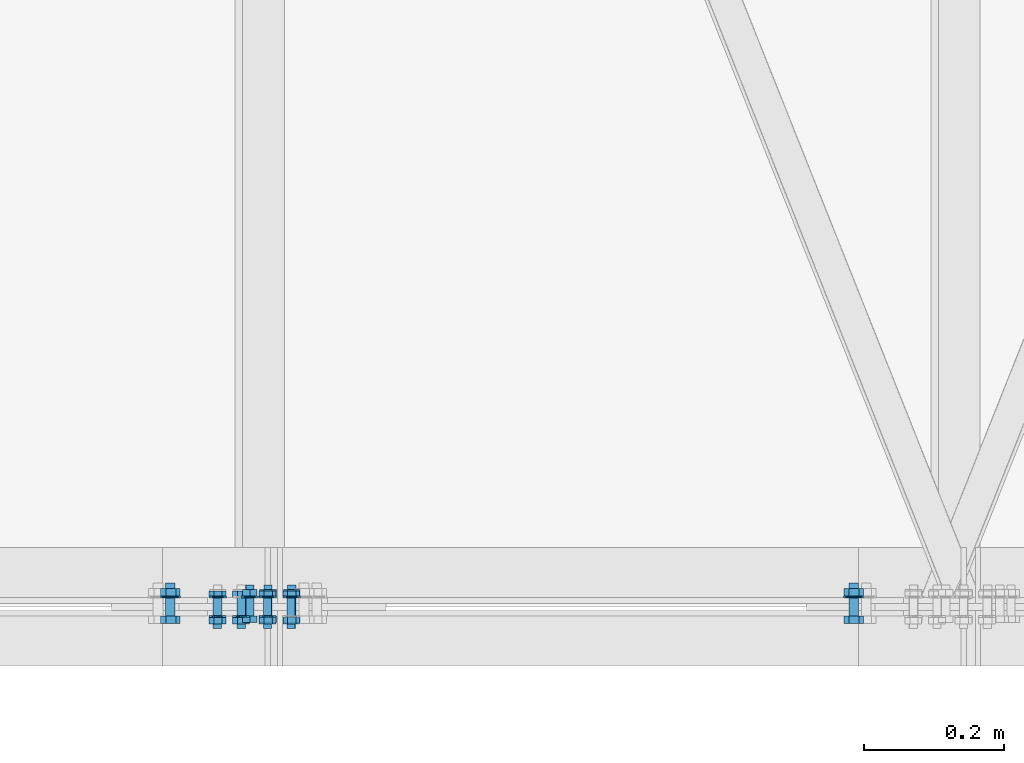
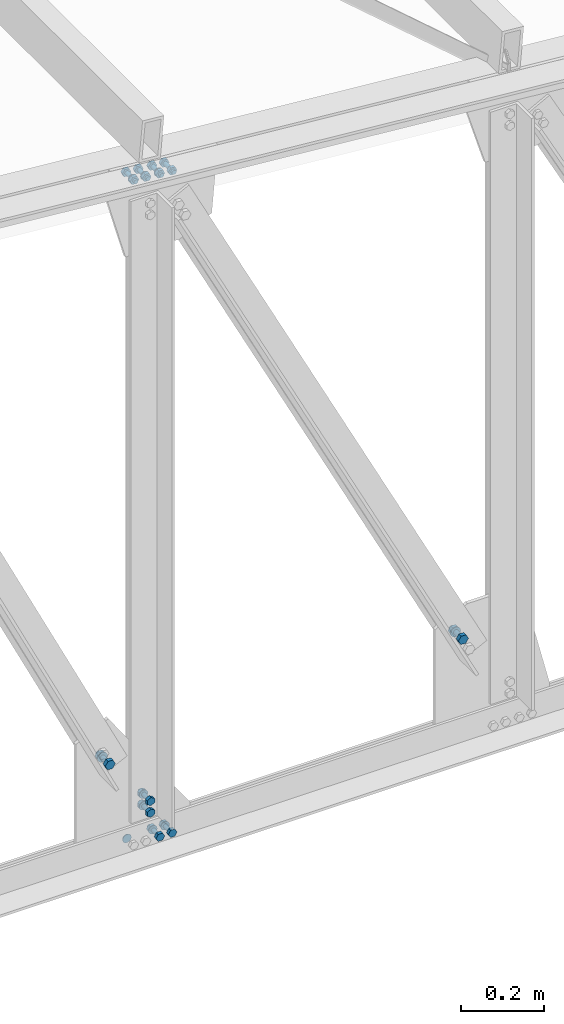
# One storey, part 62 of 251: 40 mechanical fasteners.
"""IFC4 building model written with IfcOpenShell, lengths in metres."""

from ifc_helpers import new_model, si_unit, frame, origin_with_axes, place, context, project, spatial, polyline, outline, extrude, type_object, element, save


model = new_model("IFC4")

# Units and contexts
model_context = context("Model", 3, precision=1e-05, world=origin_with_axes())
ifc_project = project(units=[si_unit("LENGTHUNIT", "METRE"), si_unit("AREAUNIT", "SQUARE_METRE"), si_unit("VOLUMEUNIT", "CUBIC_METRE"), si_unit("MASSUNIT", "GRAM", prefix="KILO"), si_unit("TIMEUNIT", "SECOND"), si_unit("PLANEANGLEUNIT", "RADIAN"), si_unit("SOLIDANGLEUNIT", "STERADIAN"), si_unit("THERMODYNAMICTEMPERATUREUNIT", "DEGREE_CELSIUS")], contexts=[model_context])

# Site, building, storey
placement_1 = place(None, origin_with_axes())
site = spatial("IfcSite", under=ifc_project, at=placement_1, Name="Italia", CompositionType="ELEMENT")
building = spatial("IfcBuilding", under=site, at=placement_1, Name="Deposito", CompositionType="ELEMENT")
storey = spatial("IfcBuildingStorey", under=building, at=placement_1, Name="Storey 0", CompositionType="ELEMENT", Elevation=0.0)

# Mechanical fasteners
mechanical_fastener_type_1 = type_object("IfcMechanicalFastenerType", Name="Reticolare 2", PredefinedType="BOLT")
placement_2 = place(placement_1, origin_with_axes())
mechanical_fastener_1_placement = place(placement_2, origin_with_axes())
element("IfcMechanicalFastener", 1, at=mechanical_fastener_1_placement, inside=storey, type_object=mechanical_fastener_type_1, Name="Reticolare 2", NominalDiameter=0.024, context=model_context, shape_type="SweptSolid", body=[
    extrude(outline(polyline([(0.0, 0.0), (-0.000409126, -0.00310564), (-0.00160789, -0.00600004), (-0.00351524, -0.00848532), (-0.00600052, -0.0103922), (-0.00889397, -0.011591), (-0.0120001, -0.0120001), (-0.0151062, -0.011591), (-0.0179996, -0.0103922), (-0.0204849, -0.00848532), (-0.0223923, -0.00600004), (-0.023591, -0.00310564), (-0.0240002, 0.0), (-0.023591, 0.00310564), (-0.0223923, 0.00600004), (-0.0204849, 0.00848532), (-0.0179996, 0.0103922), (-0.0151062, 0.011591), (-0.0120001, 0.0120001), (-0.00889397, 0.011591), (-0.00600052, 0.0103922), (-0.00351524, 0.00848532), (-0.00160789, 0.00600004), (-0.000409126, 0.00310564), (0.0, 0.0)])), frame((9.00086, 0.015, 5.007), z_axis=(0.0, -1.0, 0.0), x_axis=(1.0, 0.0, 0.0)), (0.0, 0.0, 1.0), 0.002),
])
mechanical_fastener_type_2 = type_object("IfcMechanicalFastenerType", Name="Reticolare 2", PredefinedType="BOLT")
mechanical_fastener_2_placement = place(placement_2, origin_with_axes())
element("IfcMechanicalFastener", 2, at=mechanical_fastener_2_placement, inside=storey, type_object=mechanical_fastener_type_2, Name="Reticolare 2", NominalDiameter=0.0119997, context=model_context, shape_type="SweptSolid", body=[
    extrude(outline(polyline([(0.0, 0.0), (-0.0120001, 0.0), (-0.0179996, 0.0103922), (-0.0120001, 0.0207844), (0.0, 0.0207844), (0.00600052, 0.0103922), (0.0, 0.0)])), frame((9.06686, -0.013, 4.99661), z_axis=(0.0, -1.0, 0.0), x_axis=(1.0, 0.0, 0.0)), (0.0, 0.0, 1.0), 0.0096),
])
mechanical_fastener_type_3 = type_object("IfcMechanicalFastenerType", Name="Reticolare 2", PredefinedType="BOLT")
mechanical_fastener_3_placement = place(placement_2, origin_with_axes())
element("IfcMechanicalFastener", 3, at=mechanical_fastener_3_placement, inside=storey, type_object=mechanical_fastener_type_3, Name="Reticolare 2", NominalDiameter=0.012, context=model_context, shape_type="SweptSolid", body=[
    extrude(outline(polyline([(0.0, 0.0), (-0.000204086, -0.00155306), (-0.000802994, -0.00299978), (-0.00175667, -0.00424242), (-0.00299931, -0.00519609), (-0.00444698, -0.00579548), (-0.00599957, -0.00600004), (-0.00755215, -0.00579548), (-0.00899982, -0.00519609), (-0.0102425, -0.00424242), (-0.0111961, -0.00299978), (-0.011795, -0.00155306), (-0.0119991, 0.0), (-0.011795, 0.00155306), (-0.0111961, 0.00299978), (-0.0102425, 0.00424242), (-0.00899982, 0.00519609), (-0.00755215, 0.00579548), (-0.00599957, 0.00600004), (-0.00444698, 0.00579548), (-0.00299931, 0.00519609), (-0.00175667, 0.00424242), (-0.000802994, 0.00299978), (-0.000204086, 0.00155306), (0.0, 0.0)])), frame((9.06686, 0.031, 5.007), z_axis=(0.0, -1.0, 0.0), x_axis=(1.0, 0.0, 0.0)), (0.0, 0.0, 1.0), 0.044),
])
mechanical_fastener_type_4 = type_object("IfcMechanicalFastenerType", Name="Reticolare 2", PredefinedType="BOLT")
mechanical_fastener_4_placement = place(placement_2, origin_with_axes())
element("IfcMechanicalFastener", 4, at=mechanical_fastener_4_placement, inside=storey, type_object=mechanical_fastener_type_4, Name="Reticolare 2", NominalDiameter=0.0119997, context=model_context, shape_type="SweptSolid", body=[
    extrude(outline(polyline([(0.0, 0.0), (-0.0120001, 0.0), (-0.0179996, 0.0103922), (-0.0120001, 0.0207844), (0.0, 0.0207844), (0.00600052, 0.0103922), (0.0, 0.0)])), frame((9.06686, 0.0246, 4.99661), z_axis=(0.0, -1.0, 0.0), x_axis=(1.0, 0.0, 0.0)), (0.0, 0.0, 1.0), 0.0096),
])
mechanical_fastener_type_5 = type_object("IfcMechanicalFastenerType", Name="Reticolare 2", PredefinedType="BOLT")
mechanical_fastener_5_placement = place(placement_2, origin_with_axes())
element("IfcMechanicalFastener", 5, at=mechanical_fastener_5_placement, inside=storey, type_object=mechanical_fastener_type_5, Name="Reticolare 2", NominalDiameter=0.024, context=model_context, shape_type="SweptSolid", body=[
    extrude(outline(polyline([(0.0, 0.0), (-0.000409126, -0.00310564), (-0.00160789, -0.00600004), (-0.00351524, -0.00848532), (-0.00600052, -0.0103922), (-0.00889397, -0.011591), (-0.0120001, -0.0120001), (-0.0151062, -0.011591), (-0.0179996, -0.0103922), (-0.0204849, -0.00848532), (-0.0223923, -0.00600004), (-0.023591, -0.00310564), (-0.0240002, 0.0), (-0.023591, 0.00310564), (-0.0223923, 0.00600004), (-0.0204849, 0.00848532), (-0.0179996, 0.0103922), (-0.0151062, 0.011591), (-0.0120001, 0.0120001), (-0.00889397, 0.011591), (-0.00600052, 0.0103922), (-0.00351524, 0.00848532), (-0.00160789, 0.00600004), (-0.000409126, 0.00310564), (0.0, 0.0)])), frame((9.07286, 0.015, 5.007), z_axis=(0.0, -1.0, 0.0), x_axis=(1.0, 0.0, 0.0)), (0.0, 0.0, 1.0), 0.002),
])
mechanical_fastener_type_6 = type_object("IfcMechanicalFastenerType", Name="Reticolare 2", PredefinedType="BOLT")
mechanical_fastener_6_placement = place(placement_2, origin_with_axes())
element("IfcMechanicalFastener", 6, at=mechanical_fastener_6_placement, inside=storey, type_object=mechanical_fastener_type_6, Name="Reticolare 2", NominalDiameter=0.0119997, context=model_context, shape_type="SweptSolid", body=[
    extrude(outline(polyline([(0.0, 0.0), (-0.0120001, 0.0), (-0.0179996, 0.0103922), (-0.0120001, 0.0207844), (0.0, 0.0207844), (0.00599957, 0.0103922), (0.0, 0.0)])), frame((9.10086, -0.013, 4.99661), z_axis=(0.0, -1.0, 0.0), x_axis=(1.0, 0.0, 0.0)), (0.0, 0.0, 1.0), 0.0096),
])
mechanical_fastener_type_7 = type_object("IfcMechanicalFastenerType", Name="Reticolare 2", PredefinedType="BOLT")
mechanical_fastener_7_placement = place(placement_2, origin_with_axes())
element("IfcMechanicalFastener", 7, at=mechanical_fastener_7_placement, inside=storey, type_object=mechanical_fastener_type_7, Name="Reticolare 2", NominalDiameter=0.012, context=model_context, shape_type="SweptSolid", body=[
    extrude(outline(polyline([(0.0, 0.0), (-0.000204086, -0.00155306), (-0.000802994, -0.00299978), (-0.00175667, -0.00424242), (-0.00299931, -0.00519609), (-0.00444698, -0.00579548), (-0.00599957, -0.00600004), (-0.00755215, -0.00579548), (-0.00899982, -0.00519609), (-0.0102425, -0.00424242), (-0.0111961, -0.00299978), (-0.011795, -0.00155306), (-0.0119991, 0.0), (-0.011795, 0.00155306), (-0.0111961, 0.00299978), (-0.0102425, 0.00424242), (-0.00899982, 0.00519609), (-0.00755215, 0.00579548), (-0.00599957, 0.00600004), (-0.00444698, 0.00579548), (-0.00299931, 0.00519609), (-0.00175667, 0.00424242), (-0.000802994, 0.00299978), (-0.000204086, 0.00155306), (0.0, 0.0)])), frame((9.10086, 0.031, 5.007), z_axis=(0.0, -1.0, 0.0), x_axis=(1.0, 0.0, 0.0)), (0.0, 0.0, 1.0), 0.044),
])
mechanical_fastener_type_8 = type_object("IfcMechanicalFastenerType", Name="Reticolare 2", PredefinedType="BOLT")
mechanical_fastener_8_placement = place(placement_2, origin_with_axes())
element("IfcMechanicalFastener", 8, at=mechanical_fastener_8_placement, inside=storey, type_object=mechanical_fastener_type_8, Name="Reticolare 2", NominalDiameter=0.0119997, context=model_context, shape_type="SweptSolid", body=[
    extrude(outline(polyline([(0.0, 0.0), (-0.0120001, 0.0), (-0.0179996, 0.0103922), (-0.0120001, 0.0207844), (0.0, 0.0207844), (0.00599957, 0.0103922), (0.0, 0.0)])), frame((9.10086, 0.0246, 4.99661), z_axis=(0.0, -1.0, 0.0), x_axis=(1.0, 0.0, 0.0)), (0.0, 0.0, 1.0), 0.0096),
])
mechanical_fastener_type_9 = type_object("IfcMechanicalFastenerType", Name="Reticolare 2", PredefinedType="BOLT")
mechanical_fastener_9_placement = place(placement_2, origin_with_axes())
element("IfcMechanicalFastener", 9, at=mechanical_fastener_9_placement, inside=storey, type_object=mechanical_fastener_type_9, Name="Reticolare 2", NominalDiameter=0.024, context=model_context, shape_type="SweptSolid", body=[
    extrude(outline(polyline([(0.0, 0.0), (-0.000409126, -0.00310564), (-0.00160789, -0.00600004), (-0.00351524, -0.00848532), (-0.00600052, -0.0103922), (-0.00889397, -0.011591), (-0.0120001, -0.0120001), (-0.0151062, -0.011591), (-0.0179996, -0.0103922), (-0.0204849, -0.00848532), (-0.0223923, -0.00600004), (-0.023591, -0.00310564), (-0.0240002, 0.0), (-0.023591, 0.00310564), (-0.0223923, 0.00600004), (-0.0204849, 0.00848532), (-0.0179996, 0.0103922), (-0.0151062, 0.011591), (-0.0120001, 0.0120001), (-0.00889397, 0.011591), (-0.00600052, 0.0103922), (-0.00351524, 0.00848532), (-0.00160789, 0.00600004), (-0.000409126, 0.00310564), (0.0, 0.0)])), frame((9.10686, 0.015, 5.007), z_axis=(0.0, -1.0, 0.0), x_axis=(1.0, 0.0, 0.0)), (0.0, 0.0, 1.0), 0.002),
])
mechanical_fastener_type_10 = type_object("IfcMechanicalFastenerType", Name="Reticolare 2", PredefinedType="BOLT")
mechanical_fastener_10_placement = place(placement_2, origin_with_axes())
element("IfcMechanicalFastener", 10, at=mechanical_fastener_10_placement, inside=storey, type_object=mechanical_fastener_type_10, Name="Reticolare 2", NominalDiameter=0.0119999, context=model_context, shape_type="SweptSolid", body=[
    extrude(outline(polyline([(0.0, 0.0), (0.0, -0.0120001), (-0.0103922, -0.0180001), (-0.0207844, -0.0120001), (-0.0207844, 0.0), (-0.0103922, 0.00600004), (0.0, 0.0)])), frame((9.04525, -0.013, 5.09253), z_axis=(0.0, -1.0, 0.0), x_axis=(1.0, 0.0, 0.0)), (0.0, 0.0, 1.0), 0.0096),
])
mechanical_fastener_type_11 = type_object("IfcMechanicalFastenerType", Name="Reticolare 2", PredefinedType="BOLT")
mechanical_fastener_11_placement = place(placement_2, origin_with_axes())
element("IfcMechanicalFastener", 11, at=mechanical_fastener_11_placement, inside=storey, type_object=mechanical_fastener_type_11, Name="Reticolare 2", NominalDiameter=0.012, context=model_context, shape_type="SweptSolid", body=[
    extrude(outline(polyline([(0.0, 0.0), (-0.000204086, -0.00155306), (-0.000802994, -0.00299978), (-0.00175667, -0.00424242), (-0.00299931, -0.00519609), (-0.00444698, -0.00579548), (-0.00599957, -0.00600004), (-0.00755215, -0.00579548), (-0.00899982, -0.00519609), (-0.0102425, -0.00424242), (-0.0111961, -0.00299978), (-0.011795, -0.00155306), (-0.0119991, 0.0), (-0.011795, 0.00155306), (-0.0111961, 0.00299978), (-0.0102425, 0.00424242), (-0.00899982, 0.00519609), (-0.00755215, 0.00579548), (-0.00599957, 0.00600004), (-0.00444698, 0.00579548), (-0.00299931, 0.00519609), (-0.00175667, 0.00424242), (-0.000802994, 0.00299978), (-0.000204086, 0.00155306), (0.0, 0.0)])), frame((9.04086, 0.031, 5.08653), z_axis=(0.0, -1.0, 0.0), x_axis=(1.0, 0.0, 0.0)), (0.0, 0.0, 1.0), 0.044),
])
mechanical_fastener_type_12 = type_object("IfcMechanicalFastenerType", Name="Reticolare 2", PredefinedType="BOLT")
mechanical_fastener_12_placement = place(placement_2, origin_with_axes())
element("IfcMechanicalFastener", 12, at=mechanical_fastener_12_placement, inside=storey, type_object=mechanical_fastener_type_12, Name="Reticolare 2", NominalDiameter=0.0119999, context=model_context, shape_type="SweptSolid", body=[
    extrude(outline(polyline([(0.0, 0.0), (0.0, -0.0120001), (-0.0103922, -0.0180001), (-0.0207844, -0.0120001), (-0.0207844, 0.0), (-0.0103922, 0.00600004), (0.0, 0.0)])), frame((9.04525, 0.0246, 5.09253), z_axis=(0.0, -1.0, 0.0), x_axis=(1.0, 0.0, 0.0)), (0.0, 0.0, 1.0), 0.0096),
])
mechanical_fastener_type_13 = type_object("IfcMechanicalFastenerType", Name="Reticolare 2", PredefinedType="BOLT")
mechanical_fastener_13_placement = place(placement_2, origin_with_axes())
element("IfcMechanicalFastener", 13, at=mechanical_fastener_13_placement, inside=storey, type_object=mechanical_fastener_type_13, Name="Reticolare 2", NominalDiameter=0.024, context=model_context, shape_type="SweptSolid", body=[
    extrude(outline(polyline([(0.0, 0.0), (-0.000409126, -0.00310564), (-0.00160789, -0.00600004), (-0.00351524, -0.00848532), (-0.00600052, -0.0103922), (-0.00889397, -0.011591), (-0.0120001, -0.0120001), (-0.0151062, -0.011591), (-0.0179996, -0.0103922), (-0.0204849, -0.00848532), (-0.0223923, -0.00600004), (-0.023591, -0.00310564), (-0.0240002, 0.0), (-0.023591, 0.00310564), (-0.0223923, 0.00600004), (-0.0204849, 0.00848532), (-0.0179996, 0.0103922), (-0.0151062, 0.011591), (-0.0120001, 0.0120001), (-0.00889397, 0.011591), (-0.00600052, 0.0103922), (-0.00351524, 0.00848532), (-0.00160789, 0.00600004), (-0.000409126, 0.00310564), (0.0, 0.0)])), frame((9.04686, 0.015, 5.08653), z_axis=(0.0, -1.0, 0.0), x_axis=(1.0, 0.0, 0.0)), (0.0, 0.0, 1.0), 0.002),
])
mechanical_fastener_type_14 = type_object("IfcMechanicalFastenerType", Name="Reticolare 2", PredefinedType="BOLT")
mechanical_fastener_14_placement = place(placement_2, origin_with_axes())
element("IfcMechanicalFastener", 14, at=mechanical_fastener_14_placement, inside=storey, type_object=mechanical_fastener_type_14, Name="Reticolare 2", NominalDiameter=0.0119999, context=model_context, shape_type="SweptSolid", body=[
    extrude(outline(polyline([(0.0, 0.0), (0.0, -0.0120001), (-0.0103922, -0.0180001), (-0.0207844, -0.0120001), (-0.0207844, 0.0), (-0.0103922, 0.00600004), (0.0, 0.0)])), frame((9.04525, -0.013, 5.12653), z_axis=(0.0, -1.0, 0.0), x_axis=(1.0, 0.0, 0.0)), (0.0, 0.0, 1.0), 0.0096),
])
mechanical_fastener_type_15 = type_object("IfcMechanicalFastenerType", Name="Reticolare 2", PredefinedType="BOLT")
mechanical_fastener_15_placement = place(placement_2, origin_with_axes())
element("IfcMechanicalFastener", 15, at=mechanical_fastener_15_placement, inside=storey, type_object=mechanical_fastener_type_15, Name="Reticolare 2", NominalDiameter=0.012, context=model_context, shape_type="SweptSolid", body=[
    extrude(outline(polyline([(0.0, 0.0), (-0.000204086, -0.00155306), (-0.000802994, -0.00299978), (-0.00175667, -0.00424242), (-0.00299931, -0.00519609), (-0.00444698, -0.00579548), (-0.00599957, -0.00600004), (-0.00755215, -0.00579548), (-0.00899982, -0.00519609), (-0.0102425, -0.00424242), (-0.0111961, -0.00299978), (-0.011795, -0.00155306), (-0.0119991, 0.0), (-0.011795, 0.00155306), (-0.0111961, 0.00299978), (-0.0102425, 0.00424242), (-0.00899982, 0.00519609), (-0.00755215, 0.00579548), (-0.00599957, 0.00600004), (-0.00444698, 0.00579548), (-0.00299931, 0.00519609), (-0.00175667, 0.00424242), (-0.000802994, 0.00299978), (-0.000204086, 0.00155306), (0.0, 0.0)])), frame((9.04086, 0.031, 5.12053), z_axis=(0.0, -1.0, 0.0), x_axis=(1.0, 0.0, 0.0)), (0.0, 0.0, 1.0), 0.044),
])
mechanical_fastener_type_16 = type_object("IfcMechanicalFastenerType", Name="Reticolare 2", PredefinedType="BOLT")
mechanical_fastener_16_placement = place(placement_2, origin_with_axes())
element("IfcMechanicalFastener", 16, at=mechanical_fastener_16_placement, inside=storey, type_object=mechanical_fastener_type_16, Name="Reticolare 2", NominalDiameter=0.0119999, context=model_context, shape_type="SweptSolid", body=[
    extrude(outline(polyline([(0.0, 0.0), (0.0, -0.0120001), (-0.0103922, -0.0180001), (-0.0207844, -0.0120001), (-0.0207844, 0.0), (-0.0103922, 0.00600004), (0.0, 0.0)])), frame((9.04525, 0.0246, 5.12653), z_axis=(0.0, -1.0, 0.0), x_axis=(1.0, 0.0, 0.0)), (0.0, 0.0, 1.0), 0.0096),
])
mechanical_fastener_type_17 = type_object("IfcMechanicalFastenerType", Name="Reticolare 2", PredefinedType="BOLT")
mechanical_fastener_17_placement = place(placement_2, origin_with_axes())
element("IfcMechanicalFastener", 17, at=mechanical_fastener_17_placement, inside=storey, type_object=mechanical_fastener_type_17, Name="Reticolare 2", NominalDiameter=0.024, context=model_context, shape_type="SweptSolid", body=[
    extrude(outline(polyline([(0.0, 0.0), (-0.000409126, -0.00310564), (-0.00160789, -0.00600004), (-0.00351524, -0.00848532), (-0.00600052, -0.0103922), (-0.00889397, -0.011591), (-0.0120001, -0.0120001), (-0.0151062, -0.011591), (-0.0179996, -0.0103922), (-0.0204849, -0.00848532), (-0.0223923, -0.00600004), (-0.023591, -0.00310564), (-0.0240002, 0.0), (-0.023591, 0.00310564), (-0.0223923, 0.00600004), (-0.0204849, 0.00848532), (-0.0179996, 0.0103922), (-0.0151062, 0.011591), (-0.0120001, 0.0120001), (-0.00889397, 0.011591), (-0.00600052, 0.0103922), (-0.00351524, 0.00848532), (-0.00160789, 0.00600004), (-0.000409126, 0.00310564), (0.0, 0.0)])), frame((9.04686, 0.015, 5.12053), z_axis=(0.0, -1.0, 0.0), x_axis=(1.0, 0.0, 0.0)), (0.0, 0.0, 1.0), 0.002),
])
mechanical_fastener_type_18 = type_object("IfcMechanicalFastenerType", Name="Reticolare 2", PredefinedType="BOLT")
mechanical_fastener_18_placement = place(placement_2, origin_with_axes())
element("IfcMechanicalFastener", 18, at=mechanical_fastener_18_placement, inside=storey, type_object=mechanical_fastener_type_18, Name="Reticolare 2", NominalDiameter=0.0139994, context=model_context, shape_type="SweptSolid", body=[
    extrude(outline(polyline([(0.0, 0.0), (-0.00612926, 0.0125871), (0.00170708, 0.0241885), (0.0156717, 0.0232029), (0.021801, 0.0106158), (0.0139647, -0.000985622), (0.0, 0.0)])), frame((8.91327, -0.013, 5.25695), z_axis=(0.0, -1.0, 0.0), x_axis=(1.0, 0.0, 0.0)), (0.0, 0.0, 1.0), 0.0112),
])
mechanical_fastener_type_19 = type_object("IfcMechanicalFastenerType", Name="Reticolare 2", PredefinedType="BOLT")
mechanical_fastener_19_placement = place(placement_2, origin_with_axes())
element("IfcMechanicalFastener", 19, at=mechanical_fastener_19_placement, inside=storey, type_object=mechanical_fastener_type_19, Name="Reticolare 2", NominalDiameter=0.014, context=model_context, shape_type="SweptSolid", body=[
    extrude(outline(polyline([(0.0, 0.0), (-0.000238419, -0.0018115), (-0.000937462, -0.00349998), (-0.0020504, -0.00494957), (-0.00349998, -0.00606203), (-0.00518799, -0.00676155), (-0.00699997, -0.00699997), (-0.00881195, -0.00676155), (-0.0105, -0.00606203), (-0.0119495, -0.00494957), (-0.0130625, -0.00349998), (-0.0137615, -0.0018115), (-0.0139999, 0.0), (-0.0137615, 0.0018115), (-0.0130625, 0.00349998), (-0.0119495, 0.00494957), (-0.0105, 0.00606203), (-0.00881195, 0.00676155), (-0.00699997, 0.00699997), (-0.00518799, 0.00676155), (-0.00349998, 0.00606203), (-0.0020504, 0.00494957), (-0.000937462, 0.00349998), (-0.000238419, 0.0018115), (0.0, 0.0)])), frame((8.9281, 0.034, 5.26855), z_axis=(0.0, -1.0, 0.0), x_axis=(1.0, 0.0, 0.0)), (0.0, 0.0, 1.0), 0.047),
])
mechanical_fastener_type_20 = type_object("IfcMechanicalFastenerType", Name="Reticolare 2", PredefinedType="BOLT")
mechanical_fastener_20_placement = place(placement_2, origin_with_axes())
element("IfcMechanicalFastener", 20, at=mechanical_fastener_20_placement, inside=storey, type_object=mechanical_fastener_type_20, Name="Reticolare 2", NominalDiameter=0.0139994, context=model_context, shape_type="SweptSolid", body=[
    extrude(outline(polyline([(0.0, 0.0), (-0.00612926, 0.0125871), (0.00170708, 0.0241885), (0.0156717, 0.0232029), (0.021801, 0.0106158), (0.0139647, -0.000985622), (0.0, 0.0)])), frame((8.91327, 0.0262, 5.25695), z_axis=(0.0, -1.0, 0.0), x_axis=(1.0, 0.0, 0.0)), (0.0, 0.0, 1.0), 0.0112),
])
mechanical_fastener_type_21 = type_object("IfcMechanicalFastenerType", Name="Reticolare 2", PredefinedType="BOLT")
mechanical_fastener_21_placement = place(placement_2, origin_with_axes())
element("IfcMechanicalFastener", 21, at=mechanical_fastener_21_placement, inside=storey, type_object=mechanical_fastener_type_21, Name="Reticolare 2", NominalDiameter=0.028, context=model_context, shape_type="SweptSolid", body=[
    extrude(outline(polyline([(0.0, 0.0), (-0.000476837, -0.00362349), (-0.00187588, -0.00699997), (-0.0041008, -0.00989962), (-0.00699997, -0.0121245), (-0.0103769, -0.0135231), (-0.0139999, -0.0139999), (-0.0176229, -0.0135231), (-0.0209999, -0.0121245), (-0.0238991, -0.00989962), (-0.026124, -0.00699997), (-0.027523, -0.00362349), (-0.0279999, 0.0), (-0.027523, 0.00362349), (-0.026124, 0.00699997), (-0.0238991, 0.00989962), (-0.0209999, 0.0121245), (-0.0176229, 0.0135231), (-0.0139999, 0.0139999), (-0.0103769, 0.0135231), (-0.00699997, 0.0121245), (-0.0041008, 0.00989962), (-0.00187588, 0.00699997), (-0.000476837, 0.00362349), (0.0, 0.0)])), frame((8.9351, 0.015, 5.26855), z_axis=(0.0, -1.0, 0.0), x_axis=(1.0, 0.0, 0.0)), (0.0, 0.0, 1.0), 0.002),
])
mechanical_fastener_type_22 = type_object("IfcMechanicalFastenerType", Name="Reticolare 2", PredefinedType="BOLT")
mechanical_fastener_22_placement = place(placement_2, origin_with_axes())
element("IfcMechanicalFastener", 22, at=mechanical_fastener_22_placement, inside=storey, type_object=mechanical_fastener_type_22, Name="Reticolare 2", NominalDiameter=0.0139995, context=model_context, shape_type="SweptSolid", body=[
    extrude(outline(polyline([(0.0, 0.0), (-0.0063467, 0.0124788), (0.00128746, 0.0242147), (0.0152674, 0.0234714), (0.0216141, 0.0109925), (0.0139809, -0.000742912), (0.0, 0.0)])), frame((9.89156, -0.013, 5.28113), z_axis=(0.0, -1.0, 0.0), x_axis=(1.0, 0.0, 0.0)), (0.0, 0.0, 1.0), 0.0112),
])
mechanical_fastener_type_23 = type_object("IfcMechanicalFastenerType", Name="Reticolare 2", PredefinedType="BOLT")
mechanical_fastener_23_placement = place(placement_2, origin_with_axes())
element("IfcMechanicalFastener", 23, at=mechanical_fastener_23_placement, inside=storey, type_object=mechanical_fastener_type_23, Name="Reticolare 2", NominalDiameter=0.014, context=model_context, shape_type="SweptSolid", body=[
    extrude(outline(polyline([(0.0, 0.0), (-0.000238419, -0.0018115), (-0.000937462, -0.00349998), (-0.0020504, -0.00494957), (-0.00349998, -0.00606203), (-0.00518799, -0.00676155), (-0.00699997, -0.00699997), (-0.00881195, -0.00676155), (-0.0105, -0.00606203), (-0.0119495, -0.00494957), (-0.0130625, -0.00349998), (-0.0137615, -0.0018115), (-0.0139999, 0.0), (-0.0137615, 0.0018115), (-0.0130625, 0.00349998), (-0.0119495, 0.00494957), (-0.0105, 0.00606203), (-0.00881195, 0.00676155), (-0.00699997, 0.00699997), (-0.00518799, 0.00676155), (-0.00349998, 0.00606203), (-0.0020504, 0.00494957), (-0.000937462, 0.00349998), (-0.000238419, 0.0018115), (0.0, 0.0)])), frame((9.9062, 0.034, 5.29287), z_axis=(0.0, -1.0, 0.0), x_axis=(1.0, 0.0, 0.0)), (0.0, 0.0, 1.0), 0.047),
])
mechanical_fastener_type_24 = type_object("IfcMechanicalFastenerType", Name="Reticolare 2", PredefinedType="BOLT")
mechanical_fastener_24_placement = place(placement_2, origin_with_axes())
element("IfcMechanicalFastener", 24, at=mechanical_fastener_24_placement, inside=storey, type_object=mechanical_fastener_type_24, Name="Reticolare 2", NominalDiameter=0.0139995, context=model_context, shape_type="SweptSolid", body=[
    extrude(outline(polyline([(0.0, 0.0), (-0.0063467, 0.0124788), (0.00128746, 0.0242147), (0.0152674, 0.0234714), (0.0216141, 0.0109925), (0.0139809, -0.000742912), (0.0, 0.0)])), frame((9.89156, 0.0262, 5.28113), z_axis=(0.0, -1.0, 0.0), x_axis=(1.0, 0.0, 0.0)), (0.0, 0.0, 1.0), 0.0112),
])
mechanical_fastener_type_25 = type_object("IfcMechanicalFastenerType", Name="Reticolare 2", PredefinedType="BOLT")
mechanical_fastener_25_placement = place(placement_2, origin_with_axes())
element("IfcMechanicalFastener", 25, at=mechanical_fastener_25_placement, inside=storey, type_object=mechanical_fastener_type_25, Name="Reticolare 2", NominalDiameter=0.028, context=model_context, shape_type="SweptSolid", body=[
    extrude(outline(polyline([(0.0, 0.0), (-0.000476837, -0.00362349), (-0.00187588, -0.00699997), (-0.0041008, -0.00989962), (-0.00699997, -0.0121245), (-0.0103769, -0.0135231), (-0.0139999, -0.0139999), (-0.0176229, -0.0135231), (-0.0209999, -0.0121245), (-0.0238991, -0.00989962), (-0.026124, -0.00699997), (-0.027523, -0.00362349), (-0.0279999, 0.0), (-0.027523, 0.00362349), (-0.026124, 0.00699997), (-0.0238991, 0.00989962), (-0.0209999, 0.0121245), (-0.0176229, 0.0135231), (-0.0139999, 0.0139999), (-0.0103769, 0.0135231), (-0.00699997, 0.0121245), (-0.0041008, 0.00989962), (-0.00187588, 0.00699997), (-0.000476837, 0.00362349), (0.0, 0.0)])), frame((9.9132, 0.015, 5.29287), z_axis=(0.0, -1.0, 0.0), x_axis=(1.0, 0.0, 0.0)), (0.0, 0.0, 1.0), 0.002),
])
mechanical_fastener_type_26 = type_object("IfcMechanicalFastenerType", Name="Reticolare 2", PredefinedType="BOLT")
mechanical_fastener_26_placement = place(placement_2, origin_with_axes())
element("IfcMechanicalFastener", 26, at=mechanical_fastener_26_placement, inside=storey, type_object=mechanical_fastener_type_26, Name="Reticolare 2", NominalDiameter=0.0119996, context=model_context, shape_type="SweptSolid", body=[
    extrude(outline(polyline([(0.0, 0.0), (0.0119543, 0.00104618), (0.018837, -0.00878382), (0.0137653, -0.0196595), (0.00181103, -0.0207052), (-0.00507164, -0.0108757), (0.0, 0.0)])), frame((9.0292, 0.013, 6.96323), z_axis=(0.0, 1.0, 0.0), x_axis=(-1.0, 0.0, 0.0)), (0.0, 0.0, 1.0), 0.0096),
])
mechanical_fastener_type_27 = type_object("IfcMechanicalFastenerType", Name="Reticolare 2", PredefinedType="BOLT")
mechanical_fastener_27_placement = place(placement_2, origin_with_axes())
element("IfcMechanicalFastener", 27, at=mechanical_fastener_27_placement, inside=storey, type_object=mechanical_fastener_type_27, Name="Reticolare 2", NominalDiameter=0.012, context=model_context, shape_type="SweptSolid", body=[
    extrude(outline(polyline([(0.0, 0.0), (-0.000204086, -0.00155306), (-0.000802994, -0.00299978), (-0.00175667, -0.00424242), (-0.00299931, -0.00519609), (-0.00444698, -0.00579548), (-0.00599957, -0.00600004), (-0.00755215, -0.00579548), (-0.00899982, -0.00519609), (-0.0102425, -0.00424242), (-0.0111961, -0.00299978), (-0.011795, -0.00155306), (-0.0119991, 0.0), (-0.011795, 0.00155306), (-0.0111961, 0.00299978), (-0.0102425, 0.00424242), (-0.00899982, 0.00519609), (-0.00755215, 0.00579548), (-0.00599957, 0.00600004), (-0.00444698, 0.00579548), (-0.00299931, 0.00519609), (-0.00175667, 0.00424242), (-0.000802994, 0.00299978), (-0.000204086, 0.00155306), (0.0, 0.0)])), frame((9.01632, -0.031, 6.9534), z_axis=(0.0, 1.0, 0.0), x_axis=(-1.0, 0.0, 0.0)), (0.0, 0.0, 1.0), 0.044),
])
mechanical_fastener_type_28 = type_object("IfcMechanicalFastenerType", Name="Reticolare 2", PredefinedType="BOLT")
mechanical_fastener_28_placement = place(placement_2, origin_with_axes())
element("IfcMechanicalFastener", 28, at=mechanical_fastener_28_placement, inside=storey, type_object=mechanical_fastener_type_28, Name="Reticolare 2", NominalDiameter=0.0119996, context=model_context, shape_type="SweptSolid", body=[
    extrude(outline(polyline([(0.0, 0.0), (0.0119543, 0.00104618), (0.018837, -0.00878382), (0.0137653, -0.0196595), (0.00181103, -0.0207052), (-0.00507164, -0.0108757), (0.0, 0.0)])), frame((9.0292, -0.0246, 6.96323), z_axis=(0.0, 1.0, 0.0), x_axis=(-1.0, 0.0, 0.0)), (0.0, 0.0, 1.0), 0.0096),
])
mechanical_fastener_type_29 = type_object("IfcMechanicalFastenerType", Name="Reticolare 2", PredefinedType="BOLT")
mechanical_fastener_29_placement = place(placement_2, origin_with_axes())
element("IfcMechanicalFastener", 29, at=mechanical_fastener_29_placement, inside=storey, type_object=mechanical_fastener_type_29, Name="Reticolare 2", NominalDiameter=0.024, context=model_context, shape_type="SweptSolid", body=[
    extrude(outline(polyline([(0.0, 0.0), (-0.000409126, -0.00310564), (-0.00160789, -0.00600004), (-0.00351524, -0.00848532), (-0.00600052, -0.0103922), (-0.00889397, -0.011591), (-0.0120001, -0.0120001), (-0.0151062, -0.011591), (-0.0179996, -0.0103922), (-0.0204849, -0.00848532), (-0.0223923, -0.00600004), (-0.023591, -0.00310564), (-0.0240002, 0.0), (-0.023591, 0.00310564), (-0.0223923, 0.00600004), (-0.0204849, 0.00848532), (-0.0179996, 0.0103922), (-0.0151062, 0.011591), (-0.0120001, 0.0120001), (-0.00889397, 0.011591), (-0.00600052, 0.0103922), (-0.00351524, 0.00848532), (-0.00160789, 0.00600004), (-0.000409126, 0.00310564), (0.0, 0.0)])), frame((9.01032, -0.015, 6.9534), z_axis=(0.0, 1.0, 0.0), x_axis=(-1.0, 0.0, 0.0)), (0.0, 0.0, 1.0), 0.002),
])
mechanical_fastener_type_30 = type_object("IfcMechanicalFastenerType", Name="Reticolare 2", PredefinedType="BOLT")
mechanical_fastener_30_placement = place(placement_2, origin_with_axes())
element("IfcMechanicalFastener", 30, at=mechanical_fastener_30_placement, inside=storey, type_object=mechanical_fastener_type_30, Name="Reticolare 2", NominalDiameter=0.012, context=model_context, shape_type="SweptSolid", body=[
    extrude(outline(polyline([(0.0, 0.0), (0.0119543, 0.0010457), (0.018837, -0.00878429), (0.0137653, -0.01966), (0.00181103, -0.0207057), (-0.00507164, -0.0108757), (0.0, 0.0)])), frame((8.99533, 0.013, 6.96619), z_axis=(0.0, 1.0, 0.0), x_axis=(-1.0, 0.0, 0.0)), (0.0, 0.0, 1.0), 0.0096),
])
mechanical_fastener_type_31 = type_object("IfcMechanicalFastenerType", Name="Reticolare 2", PredefinedType="BOLT")
mechanical_fastener_31_placement = place(placement_2, origin_with_axes())
element("IfcMechanicalFastener", 31, at=mechanical_fastener_31_placement, inside=storey, type_object=mechanical_fastener_type_31, Name="Reticolare 2", NominalDiameter=0.012, context=model_context, shape_type="SweptSolid", body=[
    extrude(outline(polyline([(0.0, 0.0), (-0.000204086, -0.00155306), (-0.000802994, -0.00299978), (-0.00175667, -0.00424242), (-0.00299931, -0.00519609), (-0.00444698, -0.00579548), (-0.00599957, -0.00600004), (-0.00755215, -0.00579548), (-0.00899982, -0.00519609), (-0.0102425, -0.00424242), (-0.0111961, -0.00299978), (-0.011795, -0.00155306), (-0.0119991, 0.0), (-0.011795, 0.00155306), (-0.0111961, 0.00299978), (-0.0102425, 0.00424242), (-0.00899982, 0.00519609), (-0.00755215, 0.00579548), (-0.00599957, 0.00600004), (-0.00444698, 0.00579548), (-0.00299931, 0.00519609), (-0.00175667, 0.00424242), (-0.000802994, 0.00299978), (-0.000204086, 0.00155306), (0.0, 0.0)])), frame((8.98245, -0.031, 6.95636), z_axis=(0.0, 1.0, 0.0), x_axis=(-1.0, 0.0, 0.0)), (0.0, 0.0, 1.0), 0.044),
])
mechanical_fastener_type_32 = type_object("IfcMechanicalFastenerType", Name="Reticolare 2", PredefinedType="BOLT")
mechanical_fastener_32_placement = place(placement_2, origin_with_axes())
element("IfcMechanicalFastener", 32, at=mechanical_fastener_32_placement, inside=storey, type_object=mechanical_fastener_type_32, Name="Reticolare 2", NominalDiameter=0.012, context=model_context, shape_type="SweptSolid", body=[
    extrude(outline(polyline([(0.0, 0.0), (0.0119543, 0.0010457), (0.018837, -0.00878429), (0.0137653, -0.01966), (0.00181103, -0.0207057), (-0.00507164, -0.0108757), (0.0, 0.0)])), frame((8.99533, -0.0246, 6.96619), z_axis=(0.0, 1.0, 0.0), x_axis=(-1.0, 0.0, 0.0)), (0.0, 0.0, 1.0), 0.0096),
])
mechanical_fastener_type_33 = type_object("IfcMechanicalFastenerType", Name="Reticolare 2", PredefinedType="BOLT")
mechanical_fastener_33_placement = place(placement_2, origin_with_axes())
element("IfcMechanicalFastener", 33, at=mechanical_fastener_33_placement, inside=storey, type_object=mechanical_fastener_type_33, Name="Reticolare 2", NominalDiameter=0.024, context=model_context, shape_type="SweptSolid", body=[
    extrude(outline(polyline([(0.0, 0.0), (-0.000409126, -0.00310564), (-0.00160789, -0.00600004), (-0.00351524, -0.00848532), (-0.00600052, -0.0103922), (-0.00889397, -0.011591), (-0.0120001, -0.0120001), (-0.0151062, -0.011591), (-0.0179996, -0.0103922), (-0.0204849, -0.00848532), (-0.0223923, -0.00600004), (-0.023591, -0.00310564), (-0.0240002, 0.0), (-0.023591, 0.00310564), (-0.0223923, 0.00600004), (-0.0204849, 0.00848532), (-0.0179996, 0.0103922), (-0.0151062, 0.011591), (-0.0120001, 0.0120001), (-0.00889397, 0.011591), (-0.00600052, 0.0103922), (-0.00351524, 0.00848532), (-0.00160789, 0.00600004), (-0.000409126, 0.00310564), (0.0, 0.0)])), frame((8.97645, -0.015, 6.95636), z_axis=(0.0, 1.0, 0.0), x_axis=(-1.0, 0.0, 0.0)), (0.0, 0.0, 1.0), 0.002),
])
mechanical_fastener_type_34 = type_object("IfcMechanicalFastenerType", Name="Reticolare 2", PredefinedType="BOLT")
mechanical_fastener_34_placement = place(placement_2, origin_with_axes())
element("IfcMechanicalFastener", 34, at=mechanical_fastener_34_placement, inside=storey, type_object=mechanical_fastener_type_34, Name="Reticolare 2", NominalDiameter=0.0119997, context=model_context, shape_type="SweptSolid", body=[
    extrude(outline(polyline([(0.0, 0.0), (0.0119543, 0.0010457), (0.0188379, -0.00878429), (0.0137663, -0.01966), (0.00181198, -0.0207057), (-0.00507069, -0.0108757), (0.0, 0.0)])), frame((9.06706, 0.013, 6.95991), z_axis=(0.0, 1.0, 0.0), x_axis=(-1.0, 0.0, 0.0)), (0.0, 0.0, 1.0), 0.0096),
])
mechanical_fastener_type_35 = type_object("IfcMechanicalFastenerType", Name="Reticolare 2", PredefinedType="BOLT")
mechanical_fastener_35_placement = place(placement_2, origin_with_axes())
element("IfcMechanicalFastener", 35, at=mechanical_fastener_35_placement, inside=storey, type_object=mechanical_fastener_type_35, Name="Reticolare 2", NominalDiameter=0.012, context=model_context, shape_type="SweptSolid", body=[
    extrude(outline(polyline([(0.0, 0.0), (-0.000204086, -0.00155306), (-0.000802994, -0.00299978), (-0.00175667, -0.00424242), (-0.00299931, -0.00519609), (-0.00444698, -0.00579548), (-0.00599957, -0.00600004), (-0.00755215, -0.00579548), (-0.00899982, -0.00519609), (-0.0102425, -0.00424242), (-0.0111961, -0.00299978), (-0.011795, -0.00155306), (-0.0119991, 0.0), (-0.011795, 0.00155306), (-0.0111961, 0.00299978), (-0.0102425, 0.00424242), (-0.00899982, 0.00519609), (-0.00755215, 0.00579548), (-0.00599957, 0.00600004), (-0.00444698, 0.00579548), (-0.00299931, 0.00519609), (-0.00175667, 0.00424242), (-0.000802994, 0.00299978), (-0.000204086, 0.00155306), (0.0, 0.0)])), frame((9.05418, -0.031, 6.95008), z_axis=(0.0, 1.0, 0.0), x_axis=(-1.0, 0.0, 0.0)), (0.0, 0.0, 1.0), 0.044),
])
mechanical_fastener_type_36 = type_object("IfcMechanicalFastenerType", Name="Reticolare 2", PredefinedType="BOLT")
mechanical_fastener_36_placement = place(placement_2, origin_with_axes())
element("IfcMechanicalFastener", 36, at=mechanical_fastener_36_placement, inside=storey, type_object=mechanical_fastener_type_36, Name="Reticolare 2", NominalDiameter=0.0119997, context=model_context, shape_type="SweptSolid", body=[
    extrude(outline(polyline([(0.0, 0.0), (0.0119543, 0.0010457), (0.0188379, -0.00878429), (0.0137663, -0.01966), (0.00181198, -0.0207057), (-0.00507069, -0.0108757), (0.0, 0.0)])), frame((9.06706, -0.0246, 6.95991), z_axis=(0.0, 1.0, 0.0), x_axis=(-1.0, 0.0, 0.0)), (0.0, 0.0, 1.0), 0.0096),
])
mechanical_fastener_type_37 = type_object("IfcMechanicalFastenerType", Name="Reticolare 2", PredefinedType="BOLT")
mechanical_fastener_37_placement = place(placement_2, origin_with_axes())
element("IfcMechanicalFastener", 37, at=mechanical_fastener_37_placement, inside=storey, type_object=mechanical_fastener_type_37, Name="Reticolare 2", NominalDiameter=0.024, context=model_context, shape_type="SweptSolid", body=[
    extrude(outline(polyline([(0.0, 0.0), (-0.000409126, -0.00310564), (-0.00160789, -0.00600004), (-0.00351524, -0.00848532), (-0.00600052, -0.0103922), (-0.00889397, -0.011591), (-0.0120001, -0.0120001), (-0.0151062, -0.011591), (-0.0179996, -0.0103922), (-0.0204849, -0.00848532), (-0.0223923, -0.00600004), (-0.023591, -0.00310564), (-0.0240002, 0.0), (-0.023591, 0.00310564), (-0.0223923, 0.00600004), (-0.0204849, 0.00848532), (-0.0179996, 0.0103922), (-0.0151062, 0.011591), (-0.0120001, 0.0120001), (-0.00889397, 0.011591), (-0.00600052, 0.0103922), (-0.00351524, 0.00848532), (-0.00160789, 0.00600004), (-0.000409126, 0.00310564), (0.0, 0.0)])), frame((9.04818, -0.015, 6.95008), z_axis=(0.0, 1.0, 0.0), x_axis=(-1.0, 0.0, 0.0)), (0.0, 0.0, 1.0), 0.002),
])
mechanical_fastener_type_38 = type_object("IfcMechanicalFastenerType", Name="Reticolare 2", PredefinedType="BOLT")
mechanical_fastener_38_placement = place(placement_2, origin_with_axes())
element("IfcMechanicalFastener", 38, at=mechanical_fastener_38_placement, inside=storey, type_object=mechanical_fastener_type_38, Name="Reticolare 2", NominalDiameter=0.0119996, context=model_context, shape_type="SweptSolid", body=[
    extrude(outline(polyline([(0.0, 0.0), (0.0119543, 0.0010457), (0.0188379, -0.00878382), (0.0137663, -0.0196595), (0.00181198, -0.0207052), (-0.00507069, -0.0108757), (0.0, 0.0)])), frame((9.10093, 0.013, 6.95695), z_axis=(0.0, 1.0, 0.0), x_axis=(-1.0, 0.0, 0.0)), (0.0, 0.0, 1.0), 0.0096),
])
mechanical_fastener_type_39 = type_object("IfcMechanicalFastenerType", Name="Reticolare 2", PredefinedType="BOLT")
mechanical_fastener_39_placement = place(placement_2, origin_with_axes())
element("IfcMechanicalFastener", 39, at=mechanical_fastener_39_placement, inside=storey, type_object=mechanical_fastener_type_39, Name="Reticolare 2", NominalDiameter=0.012, context=model_context, shape_type="SweptSolid", body=[
    extrude(outline(polyline([(0.0, 0.0), (-0.000204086, -0.00155306), (-0.000802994, -0.00299978), (-0.00175667, -0.00424242), (-0.00299931, -0.00519609), (-0.00444698, -0.00579548), (-0.00599957, -0.00600004), (-0.00755215, -0.00579548), (-0.00899982, -0.00519609), (-0.0102425, -0.00424242), (-0.0111961, -0.00299978), (-0.011795, -0.00155306), (-0.0119991, 0.0), (-0.011795, 0.00155306), (-0.0111961, 0.00299978), (-0.0102425, 0.00424242), (-0.00899982, 0.00519609), (-0.00755215, 0.00579548), (-0.00599957, 0.00600004), (-0.00444698, 0.00579548), (-0.00299931, 0.00519609), (-0.00175667, 0.00424242), (-0.000802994, 0.00299978), (-0.000204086, 0.00155306), (0.0, 0.0)])), frame((9.08805, -0.031, 6.94712), z_axis=(0.0, 1.0, 0.0), x_axis=(-1.0, 0.0, 0.0)), (0.0, 0.0, 1.0), 0.044),
])
mechanical_fastener_type_40 = type_object("IfcMechanicalFastenerType", Name="Reticolare 2", PredefinedType="BOLT")
mechanical_fastener_40_placement = place(placement_2, origin_with_axes())
element("IfcMechanicalFastener", 40, at=mechanical_fastener_40_placement, inside=storey, type_object=mechanical_fastener_type_40, Name="Reticolare 2", NominalDiameter=0.0119996, context=model_context, shape_type="SweptSolid", body=[
    extrude(outline(polyline([(0.0, 0.0), (0.0119543, 0.0010457), (0.0188379, -0.00878382), (0.0137663, -0.0196595), (0.00181198, -0.0207052), (-0.00507069, -0.0108757), (0.0, 0.0)])), frame((9.10093, -0.0246, 6.95695), z_axis=(0.0, 1.0, 0.0), x_axis=(-1.0, 0.0, 0.0)), (0.0, 0.0, 1.0), 0.0096),
])

save(model, "model.ifc")
